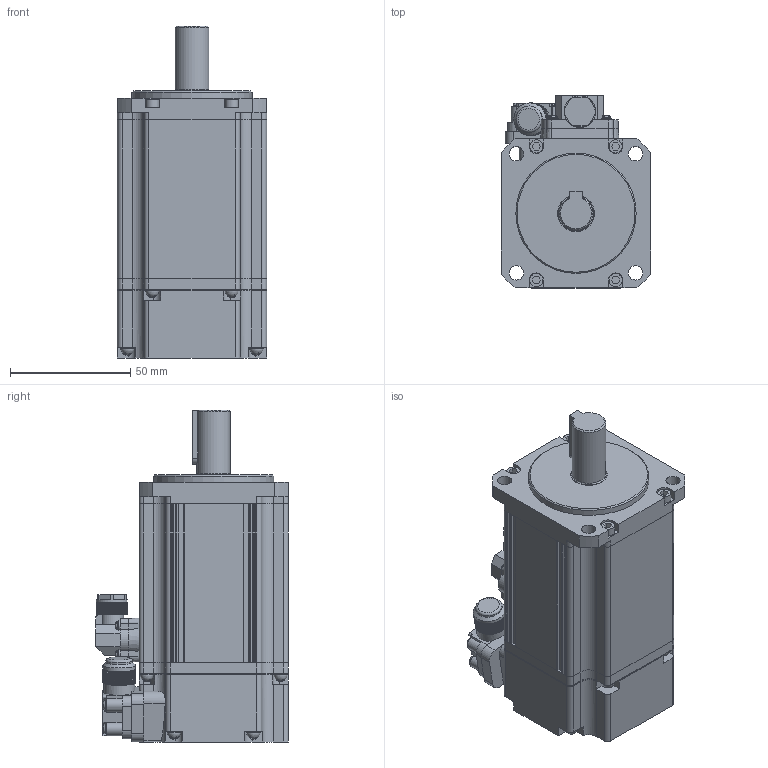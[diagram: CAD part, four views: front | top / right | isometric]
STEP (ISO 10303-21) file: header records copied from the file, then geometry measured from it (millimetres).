
FILE_DESCRIPTION(/* description */ ('STEP AP203'),/* implementation_level */ '2;1');
FILE_NAME(/* name */ 'PM-FBL04AMK',/* time_stamp */ '2024-07-11T23:02:52+02:00',/* author */ ('License CC BY-ND 4.0'),/* organization */ ('CADENAS'),/* preprocessor_version */ 'ST-DEVELOPER v19.3',/* originating_system */ 'PARTsolutions',/* authorisation */ ' ');
FILE_SCHEMA (('CONFIG_CONTROL_DESIGN'));
Length unit declared in the file: millimetre
Products named in the file (3): PM-FBL04AMK; PM-FBL04AMK_h; PM-FBL04AMK_s
Assembly tree (2 placements, depth 2):
  PM-FBL04AMK
    PM-FBL04AMK_h
    PM-FBL04AMK_s
Bounding box: 62 x 80 x 138 mm (x, y, z)
Volume: 389382 mm3; surface area: 61116.9 mm2
Topology: 2 solids, 2 shells, 1248 faces, 3330 edges, 2138 vertices
Faces by surface type: plane 1026, cylinder 195, torus 10, cone 9, sphere 8
Full cylindrical faces by diameter (mm): 3.4 x4, 4 x8, 5.5 x4, 5.7 x8, 6 x4, 11 x1, 13 x1, 13.1 x1, 13.5 x1, 14 x1, 15 x1, 15.3 x1, 50 x1
Entity records: 38069 total; most frequent: CARTESIAN_POINT 6943, ORIENTED_EDGE 6510, DIRECTION 6286, EDGE_CURVE 3255, LINE 2518, VECTOR 2518, VERTEX_POINT 2119, AXIS2_PLACEMENT_3D 1884
